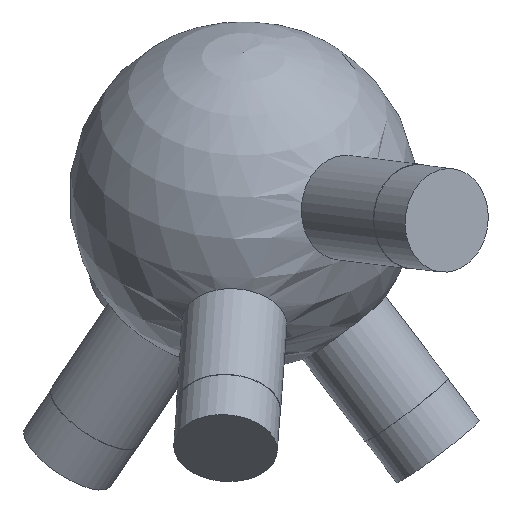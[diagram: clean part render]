
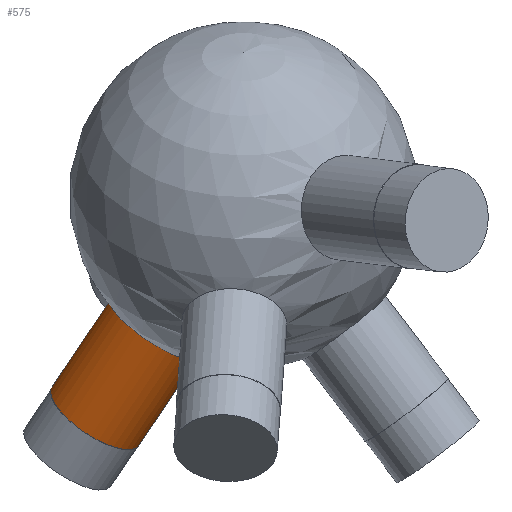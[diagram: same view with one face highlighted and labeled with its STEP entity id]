
A CAD part, isometric view. The second image highlights one B-rep face of the part: STEP entity #575.
In plain terms, the highlighted cylindrical face has radius 6 mm (diameter 12 mm), a full revolution.
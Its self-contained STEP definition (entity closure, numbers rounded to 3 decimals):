
#35 = SPHERICAL_SURFACE('',#36,20.);
#36 = AXIS2_PLACEMENT_3D('',#37,#38,#39);
#37 = CARTESIAN_POINT('',(0.,0.,0.));
#38 = DIRECTION('',(0.,0.,1.));
#39 = DIRECTION('',(1.,0.,-0.));
#130 = EDGE_CURVE('',#131,#131,#133,.T.);
#131 = VERTEX_POINT('',#132);
#132 = CARTESIAN_POINT('',(-14.26,4.978,
    -13.11));
#133 = SURFACE_CURVE('',#134,(#139,#229),.PCURVE_S1.);
#134 = CIRCLE('',#135,6.);
#135 = AXIS2_PLACEMENT_3D('',#136,#137,#138);
#136 = CARTESIAN_POINT('',(-9.031,4.978,
    -16.052));
#137 = DIRECTION('',(-0.473,0.261,-0.841));
#138 = DIRECTION('',(0.872,0.,-0.49)
  );
#139 = PCURVE('',#35,#140);
#140 = DEFINITIONAL_REPRESENTATION('',(#141),#228);
#141 = B_SPLINE_CURVE_WITH_KNOTS('',8,(#142,#143,#144,#145,#146,#147,
    #148,#149,#150,#151,#152,#153,#154,#155,#156,#157,#158,#159,#160,
    #161,#162,#163,#164,#165,#166,#167,#168,#169,#170,#171,#172,#173,
    #174,#175,#176,#177,#178,#179,#180,#181,#182,#183,#184,#185,#186,
    #187,#188,#189,#190,#191,#192,#193,#194,#195,#196,#197,#198,#199,
    #200,#201,#202,#203,#204,#205,#206,#207,#208,#209,#210,#211,#212,
    #213,#214,#215,#216,#217,#218,#219,#220,#221,#222,#223,#224,#225,
    #226,#227),.UNSPECIFIED.,.T.,.F.,(9,7,7,7,7,7,7,7,7,7,7,7,9),(
    3.142,3.927,4.614,5.216,
    5.742,6.202,6.403,6.781,
    7.112,7.401,7.907,8.666,
    9.425),.UNSPECIFIED.);
#142 = CARTESIAN_POINT('',(2.806,-0.715));
#143 = CARTESIAN_POINT('',(2.769,-0.706));
#144 = CARTESIAN_POINT('',(2.731,-0.699));
#145 = CARTESIAN_POINT('',(2.693,-0.695));
#146 = CARTESIAN_POINT('',(2.654,-0.693));
#147 = CARTESIAN_POINT('',(2.616,-0.693));
#148 = CARTESIAN_POINT('',(2.577,-0.696));
#149 = CARTESIAN_POINT('',(2.539,-0.701));
#150 = CARTESIAN_POINT('',(2.469,-0.714));
#151 = CARTESIAN_POINT('',(2.436,-0.722));
#152 = CARTESIAN_POINT('',(2.404,-0.732));
#153 = CARTESIAN_POINT('',(2.373,-0.743));
#154 = CARTESIAN_POINT('',(2.342,-0.756));
#155 = CARTESIAN_POINT('',(2.312,-0.771));
#156 = CARTESIAN_POINT('',(2.284,-0.787));
#157 = CARTESIAN_POINT('',(2.232,-0.819));
#158 = CARTESIAN_POINT('',(2.209,-0.836));
#159 = CARTESIAN_POINT('',(2.187,-0.853));
#160 = CARTESIAN_POINT('',(2.166,-0.871));
#161 = CARTESIAN_POINT('',(2.146,-0.89));
#162 = CARTESIAN_POINT('',(2.128,-0.909));
#163 = CARTESIAN_POINT('',(2.111,-0.93));
#164 = CARTESIAN_POINT('',(2.084,-0.969));
#165 = CARTESIAN_POINT('',(2.073,-0.988));
#166 = CARTESIAN_POINT('',(2.064,-1.007));
#167 = CARTESIAN_POINT('',(2.056,-1.026));
#168 = CARTESIAN_POINT('',(2.051,-1.046));
#169 = CARTESIAN_POINT('',(2.048,-1.066));
#170 = CARTESIAN_POINT('',(2.048,-1.085));
#171 = CARTESIAN_POINT('',(2.055,-1.122));
#172 = CARTESIAN_POINT('',(2.061,-1.139));
#173 = CARTESIAN_POINT('',(2.069,-1.156));
#174 = CARTESIAN_POINT('',(2.082,-1.173));
#175 = CARTESIAN_POINT('',(2.098,-1.189));
#176 = CARTESIAN_POINT('',(2.118,-1.205));
#177 = CARTESIAN_POINT('',(2.144,-1.22));
#178 = CARTESIAN_POINT('',(2.188,-1.24));
#179 = CARTESIAN_POINT('',(2.203,-1.246));
#180 = CARTESIAN_POINT('',(2.218,-1.251));
#181 = CARTESIAN_POINT('',(2.235,-1.257));
#182 = CARTESIAN_POINT('',(2.253,-1.262));
#183 = CARTESIAN_POINT('',(2.272,-1.267));
#184 = CARTESIAN_POINT('',(2.292,-1.272));
#185 = CARTESIAN_POINT('',(2.353,-1.284));
#186 = CARTESIAN_POINT('',(2.397,-1.291));
#187 = CARTESIAN_POINT('',(2.445,-1.297));
#188 = CARTESIAN_POINT('',(2.495,-1.301));
#189 = CARTESIAN_POINT('',(2.548,-1.304));
#190 = CARTESIAN_POINT('',(2.603,-1.305));
#191 = CARTESIAN_POINT('',(2.657,-1.305));
#192 = CARTESIAN_POINT('',(2.757,-1.302));
#193 = CARTESIAN_POINT('',(2.802,-1.299));
#194 = CARTESIAN_POINT('',(2.846,-1.295));
#195 = CARTESIAN_POINT('',(2.888,-1.29));
#196 = CARTESIAN_POINT('',(2.927,-1.284));
#197 = CARTESIAN_POINT('',(2.962,-1.277));
#198 = CARTESIAN_POINT('',(2.995,-1.269));
#199 = CARTESIAN_POINT('',(3.051,-1.253));
#200 = CARTESIAN_POINT('',(3.075,-1.245));
#201 = CARTESIAN_POINT('',(3.096,-1.237));
#202 = CARTESIAN_POINT('',(3.115,-1.228));
#203 = CARTESIAN_POINT('',(3.132,-1.219));
#204 = CARTESIAN_POINT('',(3.148,-1.21));
#205 = CARTESIAN_POINT('',(3.161,-1.2));
#206 = CARTESIAN_POINT('',(3.193,-1.172));
#207 = CARTESIAN_POINT('',(3.208,-1.154));
#208 = CARTESIAN_POINT('',(3.218,-1.136));
#209 = CARTESIAN_POINT('',(3.225,-1.117));
#210 = CARTESIAN_POINT('',(3.228,-1.098));
#211 = CARTESIAN_POINT('',(3.228,-1.079));
#212 = CARTESIAN_POINT('',(3.226,-1.06));
#213 = CARTESIAN_POINT('',(3.215,-1.013));
#214 = CARTESIAN_POINT('',(3.203,-0.985));
#215 = CARTESIAN_POINT('',(3.187,-0.958));
#216 = CARTESIAN_POINT('',(3.168,-0.931));
#217 = CARTESIAN_POINT('',(3.146,-0.906));
#218 = CARTESIAN_POINT('',(3.122,-0.881));
#219 = CARTESIAN_POINT('',(3.096,-0.859));
#220 = CARTESIAN_POINT('',(3.039,-0.816));
#221 = CARTESIAN_POINT('',(3.009,-0.796));
#222 = CARTESIAN_POINT('',(2.978,-0.778));
#223 = CARTESIAN_POINT('',(2.945,-0.761));
#224 = CARTESIAN_POINT('',(2.912,-0.747));
#225 = CARTESIAN_POINT('',(2.877,-0.734));
#226 = CARTESIAN_POINT('',(2.842,-0.723));
#227 = CARTESIAN_POINT('',(2.806,-0.715));
#228 = ( GEOMETRIC_REPRESENTATION_CONTEXT(2) 
PARAMETRIC_REPRESENTATION_CONTEXT() REPRESENTATION_CONTEXT('2D SPACE',''
  ) );
#229 = PCURVE('',#230,#235);
#230 = CYLINDRICAL_SURFACE('',#231,6.);
#231 = AXIS2_PLACEMENT_3D('',#232,#233,#234);
#232 = CARTESIAN_POINT('',(0.,0.,0.));
#233 = DIRECTION('',(-0.473,0.261,-0.841));
#234 = DIRECTION('',(-0.872,0.,0.49)
  );
#235 = DEFINITIONAL_REPRESENTATION('',(#236),#240);
#236 = LINE('',#237,#238);
#237 = CARTESIAN_POINT('',(-3.142,19.079));
#238 = VECTOR('',#239,1.);
#239 = DIRECTION('',(1.,0.));
#240 = ( GEOMETRIC_REPRESENTATION_CONTEXT(2) 
PARAMETRIC_REPRESENTATION_CONTEXT() REPRESENTATION_CONTEXT('2D SPACE',''
  ) );
#575 = ADVANCED_FACE('',(#576),#230,.T.);
#576 = FACE_BOUND('',#577,.T.);
#577 = EDGE_LOOP('',(#578,#601,#628,#629));
#578 = ORIENTED_EDGE('',*,*,#579,.T.);
#579 = EDGE_CURVE('',#131,#580,#582,.T.);
#580 = VERTEX_POINT('',#581);
#581 = CARTESIAN_POINT('',(-20.752,8.557,
    -24.649));
#582 = SEAM_CURVE('',#583,(#587,#594),.PCURVE_S1.);
#583 = LINE('',#584,#585);
#584 = CARTESIAN_POINT('',(-5.229,0.,
    2.942));
#585 = VECTOR('',#586,1.);
#586 = DIRECTION('',(-0.473,0.261,-0.841));
#587 = PCURVE('',#230,#588);
#588 = DEFINITIONAL_REPRESENTATION('',(#589),#593);
#589 = LINE('',#590,#591);
#590 = CARTESIAN_POINT('',(6.283,-0.));
#591 = VECTOR('',#592,1.);
#592 = DIRECTION('',(0.,1.));
#593 = ( GEOMETRIC_REPRESENTATION_CONTEXT(2) 
PARAMETRIC_REPRESENTATION_CONTEXT() REPRESENTATION_CONTEXT('2D SPACE',''
  ) );
#594 = PCURVE('',#230,#595);
#595 = DEFINITIONAL_REPRESENTATION('',(#596),#600);
#596 = LINE('',#597,#598);
#597 = CARTESIAN_POINT('',(0.,-0.));
#598 = VECTOR('',#599,1.);
#599 = DIRECTION('',(0.,1.));
#600 = ( GEOMETRIC_REPRESENTATION_CONTEXT(2) 
PARAMETRIC_REPRESENTATION_CONTEXT() REPRESENTATION_CONTEXT('2D SPACE',''
  ) );
#601 = ORIENTED_EDGE('',*,*,#602,.F.);
#602 = EDGE_CURVE('',#580,#580,#603,.T.);
#603 = SURFACE_CURVE('',#604,(#609,#616),.PCURVE_S1.);
#604 = CIRCLE('',#605,6.);
#605 = AXIS2_PLACEMENT_3D('',#606,#607,#608);
#606 = CARTESIAN_POINT('',(-15.523,8.557,
    -27.591));
#607 = DIRECTION('',(-0.473,0.261,-0.841));
#608 = DIRECTION('',(-0.872,0.,0.49)
  );
#609 = PCURVE('',#230,#610);
#610 = DEFINITIONAL_REPRESENTATION('',(#611),#615);
#611 = LINE('',#612,#613);
#612 = CARTESIAN_POINT('',(0.,32.795));
#613 = VECTOR('',#614,1.);
#614 = DIRECTION('',(1.,0.));
#615 = ( GEOMETRIC_REPRESENTATION_CONTEXT(2) 
PARAMETRIC_REPRESENTATION_CONTEXT() REPRESENTATION_CONTEXT('2D SPACE',''
  ) );
#616 = PCURVE('',#617,#622);
#617 = PLANE('',#618);
#618 = AXIS2_PLACEMENT_3D('',#619,#620,#621);
#619 = CARTESIAN_POINT('',(-15.523,8.557,
    -27.591));
#620 = DIRECTION('',(-0.473,0.261,-0.841));
#621 = DIRECTION('',(-0.872,0.,0.49)
  );
#622 = DEFINITIONAL_REPRESENTATION('',(#623),#627);
#623 = CIRCLE('',#624,6.);
#624 = AXIS2_PLACEMENT_2D('',#625,#626);
#625 = CARTESIAN_POINT('',(0.,0.));
#626 = DIRECTION('',(1.,0.));
#627 = ( GEOMETRIC_REPRESENTATION_CONTEXT(2) 
PARAMETRIC_REPRESENTATION_CONTEXT() REPRESENTATION_CONTEXT('2D SPACE',''
  ) );
#628 = ORIENTED_EDGE('',*,*,#579,.F.);
#629 = ORIENTED_EDGE('',*,*,#130,.T.);
